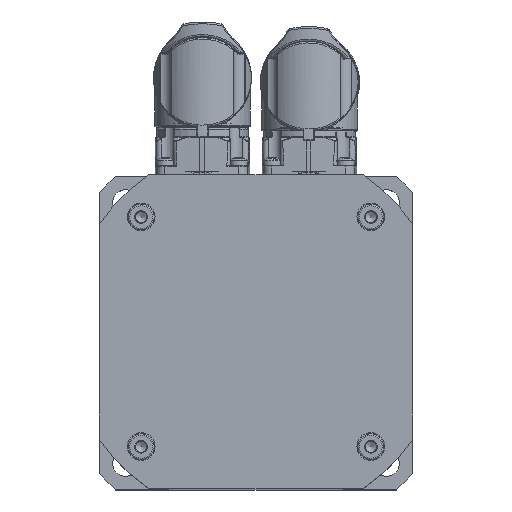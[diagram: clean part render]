
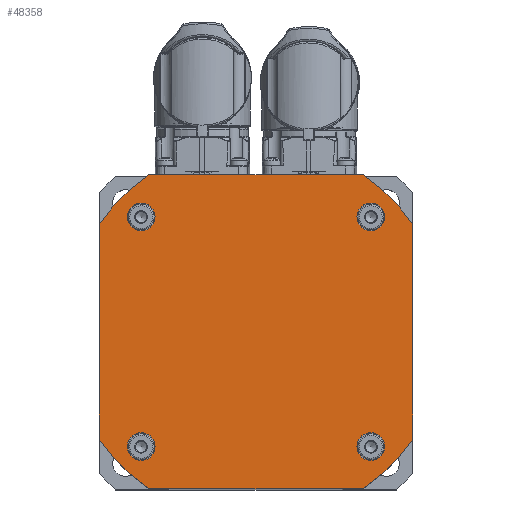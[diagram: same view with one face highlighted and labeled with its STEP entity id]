
A CAD part, top view. The second image highlights one B-rep face of the part: STEP entity #48358.
In plain terms, the highlighted planar face has unit normal (0, 0, 1).
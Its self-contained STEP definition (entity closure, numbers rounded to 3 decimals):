
#7391=LINE('',#70137,#9156);
#7397=LINE('',#70172,#9162);
#7400=LINE('',#70180,#9165);
#7404=LINE('',#70188,#9169);
#9156=VECTOR('',#57224,58.172);
#9162=VECTOR('',#57268,58.172);
#9165=VECTOR('',#57277,58.172);
#9169=VECTOR('',#57287,58.172);
#10887=PLANE('',#51540);
#11491=FACE_BOUND('',#15039,.T.);
#11492=FACE_BOUND('',#15040,.T.);
#11493=FACE_BOUND('',#15041,.T.);
#11494=FACE_BOUND('',#15042,.T.);
#11495=FACE_BOUND('',#15043,.T.);
#15039=EDGE_LOOP('',(#33265));
#15040=EDGE_LOOP('',(#33266));
#15041=EDGE_LOOP('',(#33267));
#15042=EDGE_LOOP('',(#33268));
#15043=EDGE_LOOP('',(#33269,#33270,#33271,#33272,#33273,#33274,#33275,#33276));
#18445=CIRCLE('',#51513,51.5);
#18446=CIRCLE('',#51516,3.75);
#18448=CIRCLE('',#51520,3.75);
#18450=CIRCLE('',#51524,3.75);
#18452=CIRCLE('',#51528,3.75);
#18454=CIRCLE('',#51532,51.5);
#18455=CIRCLE('',#51535,51.5);
#18456=CIRCLE('',#51538,51.5);
#21231=VERTEX_POINT('',#70130);
#21232=VERTEX_POINT('',#70132);
#21233=VERTEX_POINT('',#70136);
#21234=VERTEX_POINT('',#70141);
#21236=VERTEX_POINT('',#70147);
#21238=VERTEX_POINT('',#70153);
#21240=VERTEX_POINT('',#70159);
#21242=VERTEX_POINT('',#70165);
#21243=VERTEX_POINT('',#70167);
#21244=VERTEX_POINT('',#70174);
#21245=VERTEX_POINT('',#70179);
#21246=VERTEX_POINT('',#70183);
#25813=EDGE_CURVE('',#21232,#21231,#18445,.T.);
#25815=EDGE_CURVE('',#21233,#21232,#7391,.T.);
#25818=EDGE_CURVE('',#21234,#21234,#18446,.T.);
#25820=EDGE_CURVE('',#21236,#21236,#18448,.T.);
#25822=EDGE_CURVE('',#21238,#21238,#18450,.T.);
#25824=EDGE_CURVE('',#21240,#21240,#18452,.T.);
#25827=EDGE_CURVE('',#21243,#21242,#18454,.T.);
#25830=EDGE_CURVE('',#21231,#21243,#7397,.T.);
#25831=EDGE_CURVE('',#21244,#21233,#18455,.T.);
#25834=EDGE_CURVE('',#21245,#21244,#7400,.T.);
#25836=EDGE_CURVE('',#21246,#21245,#18456,.T.);
#25839=EDGE_CURVE('',#21242,#21246,#7404,.T.);
#33265=ORIENTED_EDGE('',*,*,#25818,.T.);
#33266=ORIENTED_EDGE('',*,*,#25820,.T.);
#33267=ORIENTED_EDGE('',*,*,#25822,.T.);
#33268=ORIENTED_EDGE('',*,*,#25824,.T.);
#33269=ORIENTED_EDGE('',*,*,#25839,.T.);
#33270=ORIENTED_EDGE('',*,*,#25836,.T.);
#33271=ORIENTED_EDGE('',*,*,#25834,.T.);
#33272=ORIENTED_EDGE('',*,*,#25831,.T.);
#33273=ORIENTED_EDGE('',*,*,#25815,.T.);
#33274=ORIENTED_EDGE('',*,*,#25813,.T.);
#33275=ORIENTED_EDGE('',*,*,#25830,.T.);
#33276=ORIENTED_EDGE('',*,*,#25827,.T.);
#48358=ADVANCED_FACE('',(#11491,#11492,#11493,#11494,#11495),#10887,.T.);
#51513=AXIS2_PLACEMENT_3D('',#70133,#57219,#57220);
#51516=AXIS2_PLACEMENT_3D('',#70142,#57229,#57230);
#51520=AXIS2_PLACEMENT_3D('',#70148,#57237,#57238);
#51524=AXIS2_PLACEMENT_3D('',#70154,#57245,#57246);
#51528=AXIS2_PLACEMENT_3D('',#70160,#57253,#57254);
#51532=AXIS2_PLACEMENT_3D('',#70168,#57262,#57263);
#51535=AXIS2_PLACEMENT_3D('',#70175,#57271,#57272);
#51538=AXIS2_PLACEMENT_3D('',#70184,#57281,#57282);
#51540=AXIS2_PLACEMENT_3D('',#70189,#57288,#57289);
#57219=DIRECTION('center_axis',(0.,0.,1.));
#57220=DIRECTION('ref_axis',(0.565,-0.825,0.));
#57224=DIRECTION('',(1.,0.,0.));
#57229=DIRECTION('center_axis',(0.,0.,-1.));
#57230=DIRECTION('ref_axis',(0.,-1.,0.));
#57237=DIRECTION('center_axis',(0.,0.,-1.));
#57238=DIRECTION('ref_axis',(-1.,0.,0.));
#57245=DIRECTION('center_axis',(0.,0.,-1.));
#57246=DIRECTION('ref_axis',(0.,1.,0.));
#57253=DIRECTION('center_axis',(0.,0.,-1.));
#57254=DIRECTION('ref_axis',(1.,0.,0.));
#57262=DIRECTION('center_axis',(0.,0.,1.));
#57263=DIRECTION('ref_axis',(0.825,0.565,0.));
#57268=DIRECTION('',(0.,1.,0.));
#57271=DIRECTION('center_axis',(0.,0.,1.));
#57272=DIRECTION('ref_axis',(-0.825,-0.565,0.));
#57277=DIRECTION('',(0.,-1.,0.));
#57281=DIRECTION('center_axis',(0.,0.,1.));
#57282=DIRECTION('ref_axis',(-0.565,0.825,0.));
#57287=DIRECTION('',(-1.,0.,0.));
#57288=DIRECTION('center_axis',(0.,0.,1.));
#57289=DIRECTION('ref_axis',(1.,0.,0.));
#70130=CARTESIAN_POINT('',(42.5,-29.086,220.));
#70132=CARTESIAN_POINT('',(29.086,-42.5,220.));
#70133=CARTESIAN_POINT('Origin',(0.,0.,220.));
#70136=CARTESIAN_POINT('',(-29.086,-42.5,220.));
#70137=CARTESIAN_POINT('',(-42.5,-42.5,220.));
#70141=CARTESIAN_POINT('',(31.113,-34.863,220.));
#70142=CARTESIAN_POINT('Origin',(31.113,-31.113,220.));
#70147=CARTESIAN_POINT('',(-34.863,-31.113,220.));
#70148=CARTESIAN_POINT('Origin',(-31.113,-31.113,220.));
#70153=CARTESIAN_POINT('',(-31.113,34.863,220.));
#70154=CARTESIAN_POINT('Origin',(-31.113,31.113,220.));
#70159=CARTESIAN_POINT('',(34.863,31.113,220.));
#70160=CARTESIAN_POINT('Origin',(31.113,31.113,220.));
#70165=CARTESIAN_POINT('',(29.086,42.5,220.));
#70167=CARTESIAN_POINT('',(42.5,29.086,220.));
#70168=CARTESIAN_POINT('Origin',(0.,0.,220.));
#70172=CARTESIAN_POINT('',(42.5,-42.5,220.));
#70174=CARTESIAN_POINT('',(-42.5,-29.086,220.));
#70175=CARTESIAN_POINT('Origin',(0.,0.,220.));
#70179=CARTESIAN_POINT('',(-42.5,29.086,220.));
#70180=CARTESIAN_POINT('',(-42.5,42.5,220.));
#70183=CARTESIAN_POINT('',(-29.086,42.5,220.));
#70184=CARTESIAN_POINT('Origin',(0.,0.,220.));
#70188=CARTESIAN_POINT('',(42.5,42.5,220.));
#70189=CARTESIAN_POINT('Origin',(0.,0.,
220.));
